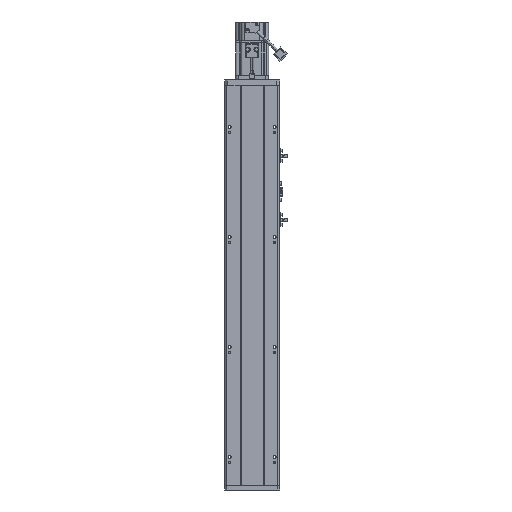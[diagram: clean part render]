
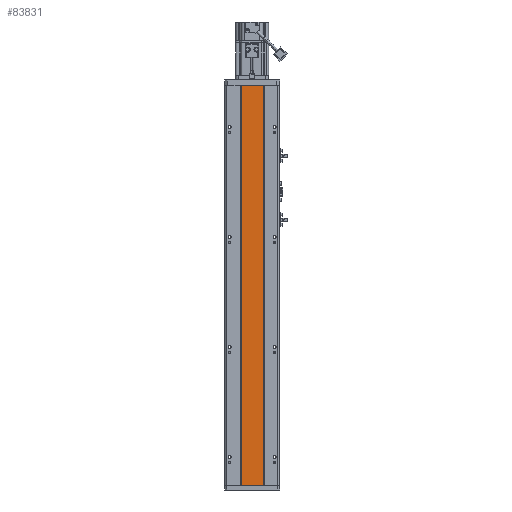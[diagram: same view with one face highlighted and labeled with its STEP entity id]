
A CAD part, front view. The second image highlights one B-rep face of the part: STEP entity #83831.
In plain terms, the highlighted planar face has unit normal (0, -1, 0).
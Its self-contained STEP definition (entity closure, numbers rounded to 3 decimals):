
#1727 = CARTESIAN_POINT ( 'NONE',  ( 20., 0., 0. ) ) ;
#2477 = DIRECTION ( 'NONE',  ( -1., 0., 0. ) ) ;
#5999 = VERTEX_POINT ( 'NONE', #41322 ) ;
#13352 = VECTOR ( 'NONE', #87935, 1000. ) ;
#13508 = LINE ( 'NONE', #80728, #13352 ) ;
#13591 = VERTEX_POINT ( 'NONE', #53321 ) ;
#13938 = CARTESIAN_POINT ( 'NONE',  ( 20., 0., 0. ) ) ;
#16786 = VERTEX_POINT ( 'NONE', #82455 ) ;
#18077 = DIRECTION ( 'NONE',  ( 0., 0., 1. ) ) ;
#22490 = VERTEX_POINT ( 'NONE', #13938 ) ;
#23965 = DIRECTION ( 'NONE',  ( -1., 0., 0. ) ) ;
#26584 = VECTOR ( 'NONE', #18077, 1000. ) ;
#26914 = LINE ( 'NONE', #61431, #26584 ) ;
#29388 = VECTOR ( 'NONE', #23965, 1000. ) ;
#29568 = LINE ( 'NONE', #1727, #29388 ) ;
#29629 = VECTOR ( 'NONE', #38550, 1000. ) ;
#30749 = LINE ( 'NONE', #45904, #29629 ) ;
#35405 = EDGE_CURVE ( 'NONE', #5999, #22490, #30749, .T. ) ;
#35437 = EDGE_CURVE ( 'NONE', #22490, #13591, #29568, .T. ) ;
#35569 = EDGE_CURVE ( 'NONE', #16786, #13591, #26914, .T. ) ;
#36269 = EDGE_CURVE ( 'NONE', #5999, #16786, #13508, .T. ) ;
#38550 = DIRECTION ( 'NONE',  ( 0., 0., 1. ) ) ;
#41322 = CARTESIAN_POINT ( 'NONE',  ( 20., 0., -728.5 ) ) ;
#45904 = CARTESIAN_POINT ( 'NONE',  ( 20., 0., -728.5 ) ) ;
#46648 = DIRECTION ( 'NONE',  ( 0., 1., 0. ) ) ;
#53321 = CARTESIAN_POINT ( 'NONE',  ( -20., 0., 0. ) ) ;
#57704 = AXIS2_PLACEMENT_3D ( 'NONE', #75381, #46648, #2477 ) ;
#61431 = CARTESIAN_POINT ( 'NONE',  ( -20., 0., -728.5 ) ) ;
#62788 = ORIENTED_EDGE ( 'NONE', *, *, #35437, .T. ) ;
#65286 = ORIENTED_EDGE ( 'NONE', *, *, #35569, .F. ) ;
#67214 = ORIENTED_EDGE ( 'NONE', *, *, #36269, .F. ) ;
#68622 = ORIENTED_EDGE ( 'NONE', *, *, #35405, .T. ) ;
#71519 = EDGE_LOOP ( 'NONE', ( #62788, #65286, #67214, #68622 ) ) ;
#75381 = CARTESIAN_POINT ( 'NONE',  ( 20., 0., -728.5 ) ) ;
#80728 = CARTESIAN_POINT ( 'NONE',  ( 20., 0., -728.5 ) ) ;
#82455 = CARTESIAN_POINT ( 'NONE',  ( -20., 0., -728.5 ) ) ;
#83831 = ADVANCED_FACE ( 'NONE', ( #85671 ), #89517, .F. ) ;
#85671 = FACE_OUTER_BOUND ( 'NONE', #71519, .T. ) ;
#87935 = DIRECTION ( 'NONE',  ( -1., 0., 0. ) ) ;
#89517 = PLANE ( 'NONE',  #57704 ) ;
